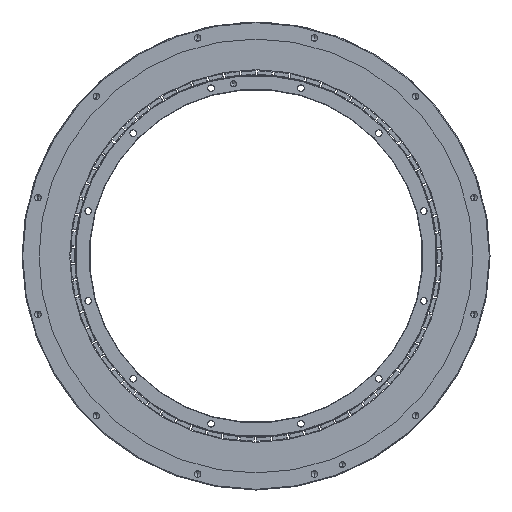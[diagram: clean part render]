
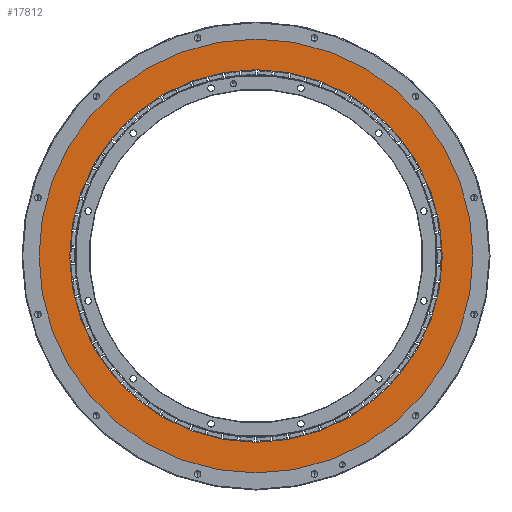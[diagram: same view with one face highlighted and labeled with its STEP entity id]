
A CAD part, front view. The second image highlights one B-rep face of the part: STEP entity #17812.
In plain terms, the highlighted planar face has unit normal (0, -1, 0).
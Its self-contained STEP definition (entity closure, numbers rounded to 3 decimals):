
#1006 = EDGE_CURVE ( 'NONE', #4248, #28686, #22488, .T. ) ;
#1108 = EDGE_CURVE ( 'NONE', #28686, #4248, #30481, .T. ) ;
#1331 = CIRCLE ( 'NONE', #3458, 224.905 ) ;
#1409 = DIRECTION ( 'NONE',  ( 0., 0., -1. ) ) ;
#1894 = ORIENTED_EDGE ( 'NONE', *, *, #1006, .F. ) ;
#2125 = EDGE_LOOP ( 'NONE', ( #20016, #1894 ) ) ;
#2434 = AXIS2_PLACEMENT_3D ( 'NONE', #9333, #21325, #6613 ) ;
#3458 = AXIS2_PLACEMENT_3D ( 'NONE', #6812, #4731, #21515 ) ;
#3900 = FACE_OUTER_BOUND ( 'NONE', #31139, .T. ) ;
#3974 = CARTESIAN_POINT ( 'NONE',  ( 0., -44., 0. ) ) ;
#4126 = VERTEX_POINT ( 'NONE', #9692 ) ;
#4248 = VERTEX_POINT ( 'NONE', #23734 ) ;
#4731 = DIRECTION ( 'NONE',  ( 0., -1., 0. ) ) ;
#5907 = DIRECTION ( 'NONE',  ( 0., -1., 0. ) ) ;
#6198 = VERTEX_POINT ( 'NONE', #10983 ) ;
#6613 = DIRECTION ( 'NONE',  ( 0., 0., -1. ) ) ;
#6812 = CARTESIAN_POINT ( 'NONE',  ( 0., -44., 0. ) ) ;
#7029 = CARTESIAN_POINT ( 'NONE',  ( 0., -44., -193.1 ) ) ;
#8143 = ORIENTED_EDGE ( 'NONE', *, *, #8394, .T. ) ;
#8394 = EDGE_CURVE ( 'NONE', #4126, #6198, #1331, .T. ) ;
#9333 = CARTESIAN_POINT ( 'NONE',  ( 0., -44., 0. ) ) ;
#9692 = CARTESIAN_POINT ( 'NONE',  ( 0., -44., -224.905 ) ) ;
#10983 = CARTESIAN_POINT ( 'NONE',  ( 0., -44., 224.905 ) ) ;
#13770 = FACE_BOUND ( 'NONE', #2125, .T. ) ;
#15872 = DIRECTION ( 'NONE',  ( 0., -1., 0. ) ) ;
#17812 = ADVANCED_FACE ( 'NONE', ( #13770, #3900 ), #20869, .T. ) ;
#17972 = DIRECTION ( 'NONE',  ( 0., 0., -1. ) ) ;
#19262 = EDGE_CURVE ( 'NONE', #6198, #4126, #21741, .T. ) ;
#20016 = ORIENTED_EDGE ( 'NONE', *, *, #1108, .F. ) ;
#20869 = PLANE ( 'NONE',  #2434 ) ;
#21325 = DIRECTION ( 'NONE',  ( 0., -1., 0. ) ) ;
#21515 = DIRECTION ( 'NONE',  ( 0., 0., -1. ) ) ;
#21741 = CIRCLE ( 'NONE', #24798, 224.905 ) ;
#21990 = AXIS2_PLACEMENT_3D ( 'NONE', #3974, #23463, #1409 ) ;
#22488 = CIRCLE ( 'NONE', #27465, 193.1 ) ;
#23463 = DIRECTION ( 'NONE',  ( 0., -1., 0. ) ) ;
#23734 = CARTESIAN_POINT ( 'NONE',  ( 0., -44., 193.1 ) ) ;
#24798 = AXIS2_PLACEMENT_3D ( 'NONE', #27703, #15872, #25356 ) ;
#25356 = DIRECTION ( 'NONE',  ( 0., 0., -1. ) ) ;
#27465 = AXIS2_PLACEMENT_3D ( 'NONE', #29942, #5907, #17972 ) ;
#27703 = CARTESIAN_POINT ( 'NONE',  ( 0., -44., 0. ) ) ;
#28686 = VERTEX_POINT ( 'NONE', #7029 ) ;
#29942 = CARTESIAN_POINT ( 'NONE',  ( 0., -44., 0. ) ) ;
#30481 = CIRCLE ( 'NONE', #21990, 193.1 ) ;
#30982 = ORIENTED_EDGE ( 'NONE', *, *, #19262, .T. ) ;
#31139 = EDGE_LOOP ( 'NONE', ( #8143, #30982 ) ) ;
